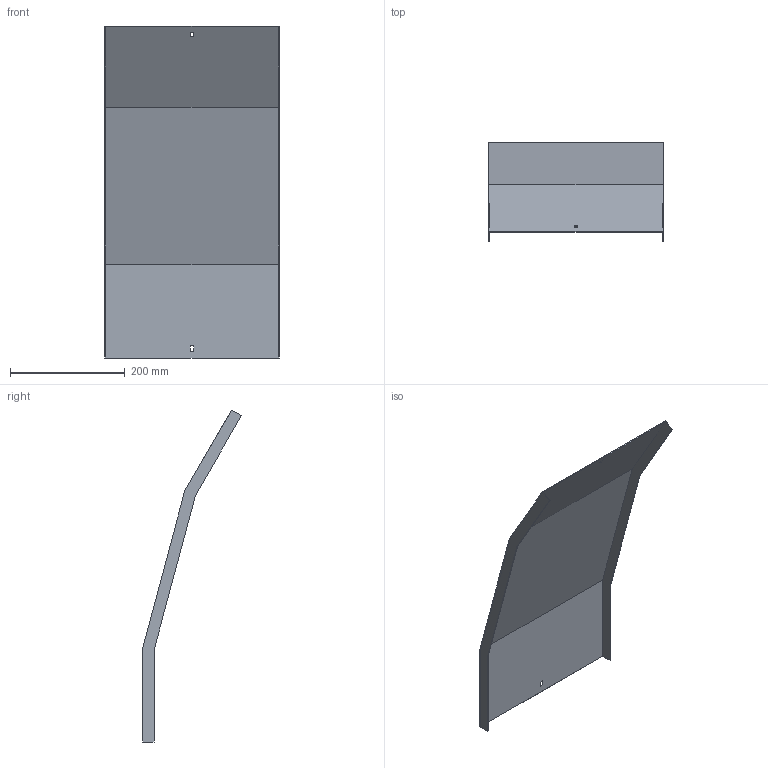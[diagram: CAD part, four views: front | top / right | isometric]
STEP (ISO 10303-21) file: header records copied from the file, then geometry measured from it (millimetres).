
FILE_DESCRIPTION (( 'STEP AP214' ), '1' );
FILE_NAME ('35N5C300.step', '2025-02-21T10:28:31', ( '' ), ( '' ), 'SwSTEP 2.0', 'SolidWorks 2023', '' );
FILE_SCHEMA (( 'AUTOMOTIVE_DESIGN' ));
Length unit declared in the file: millimetre
Products named in the file (1): 35N5C300
Bounding box: 303 x 172.21 x 578.06 mm (x, y, z)
Volume: 310192.2 mm3; surface area: 416500.8 mm2
Topology: 1 solids, 1 shells, 26 faces, 72 edges, 48 vertices
Faces by surface type: plane 26
Entity records: 847 total; most frequent: CARTESIAN_POINT 147, ORIENTED_EDGE 144, DIRECTION 126, EDGE_CURVE 72, LINE 72, VECTOR 72, VERTEX_POINT 48, EDGE_LOOP 30
